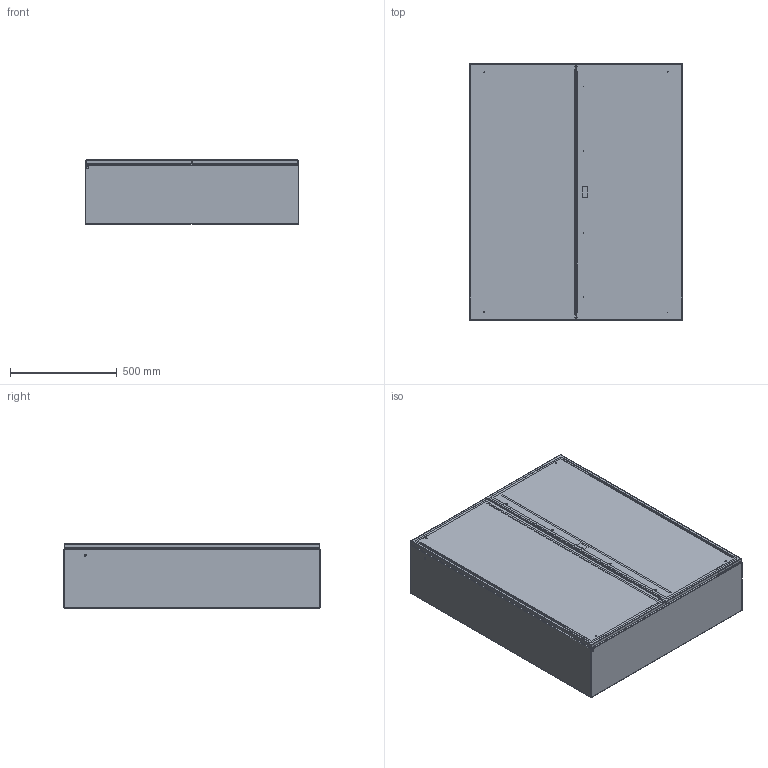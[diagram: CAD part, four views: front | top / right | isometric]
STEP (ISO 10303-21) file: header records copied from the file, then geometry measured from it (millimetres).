
FILE_DESCRIPTION (( 'STEP AP203' ), '1' );
FILE_NAME ('CPRO006_0101_SEMPL.STEP', '2021-01-08T11:28:50', ( '' ), ( '' ), 'SwSTEP 2.0', 'SolidWorks 2019', '' );
FILE_SCHEMA (( 'CONFIG_CONTROL_DESIGN' ));
Length unit declared in the file: millimetre
Products named in the file (24): CPRO006_ECOR_Gomma_porta_IB_05; CPRO006_00008010102_01; CPRO006_03008030301_05; CPRO006_04008030201_05; CPRO006_07008040101_26; CPRO006_Dado esagonale flangiato zigrinato DIN6923_Dado  M8 flangiato-zigrinato DIN6923; CPRO006_03008010506_10; CPRO006_03008010508_05; CPRO006_05008030201_05; CPRO006_PERNO FILETTATO A SALDARE DIN32501_M6x15_ramato; CPRO006_05008010504_10; CPRO006_0101_SEMPL; CPRO006_06008030201_05; CPRO006_03008010507_05; CPRO006_ECOR_Gomma_porta_CB_05; CPRO006_03008030201_05; CPRO006_06008030301_05; CPRO006_04008010504_10; CPRO006_00008030004_19; CPRO006_07008030201_05; CPRO006_05008030301_05; CPRO006_07008030301_05; CPRO006_04008030301_05; CPRO006_03008040101_26
Assembly tree (37 placements, depth 6):
  CPRO006_0101_SEMPL
    CPRO006_05008010504_10
      CPRO006_04008010504_10
        CPRO006_03008010506_10
        CPRO006_03008010507_05
        CPRO006_03008010508_05
        CPRO006_PERNO FILETTATO A SALDARE DIN32501_M6x15_ramato  x2
    CPRO006_07008040101_26
      CPRO006_03008040101_26
      CPRO006_Dado esagonale flangiato zigrinato DIN6923_Dado  M8 flangiato-zigrinato DIN6923  x4
    CPRO006_07008030201_05
      CPRO006_06008030201_05
        CPRO006_05008030201_05
          CPRO006_04008030201_05
            CPRO006_03008030201_05
            CPRO006_00008010102_01  x6
            CPRO006_00008030004_19  x2
        CPRO006_ECOR_Gomma_porta_IB_05
    CPRO006_07008030301_05
      CPRO006_06008030301_05
        CPRO006_05008030301_05
          CPRO006_04008030301_05
            CPRO006_03008030301_05
            CPRO006_00008010102_01  x2
            CPRO006_00008030004_19  x2
        CPRO006_ECOR_Gomma_porta_CB_05
Bounding box: 1000 x 1200 x 300 mm (x, y, z)
Volume: 8255342.3 mm3; surface area: 10501819.5 mm2
Topology: 82 solids, 82 shells, 1587 faces, 3728 edges, 2312 vertices
Faces by surface type: cylinder 754, plane 570, bspline 108, cone 88, torus 67
Entity records: 30186 total; most frequent: CARTESIAN_POINT 6555, DIRECTION 4376, ORIENTED_EDGE 4196, EDGE_CURVE 2098, AXIS2_PLACEMENT_3D 1651, VERTEX_POINT 1288, EDGE_LOOP 1088, VECTOR 1074
